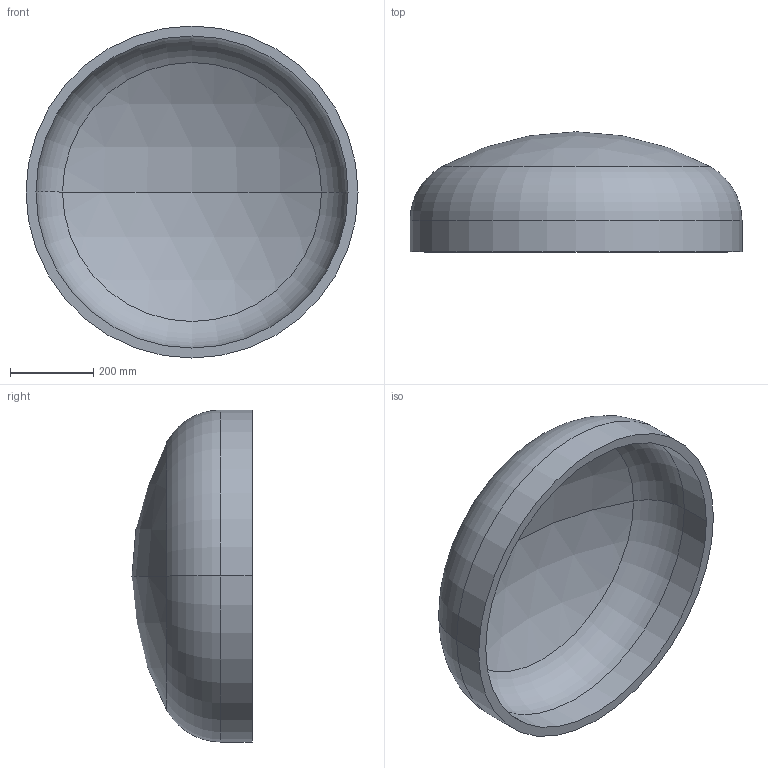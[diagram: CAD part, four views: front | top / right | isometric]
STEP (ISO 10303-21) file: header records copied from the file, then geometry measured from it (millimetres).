
FILE_DESCRIPTION (( 'STEP AP203' ), '1' );
FILE_NAME ('DIN 28013 Korbbogenform_-_Boden DIN 28013 - 800 x 75 - I - s=24.step', '2016-07-01T08:14:19', ( '' ), ( '' ), 'SwSTEP 2.0', 'SolidWorks 2013', '' );
FILE_SCHEMA (( 'CONFIG_CONTROL_DESIGN' ));
Length unit declared in the file: millimetre
Products named in the file (1): DIN 28013 Korbbogenform_-_Boden DIN 28013 - 800 x 75 - I - s=24
Bounding box: 800 x 289.31 x 800 mm (x, y, z)
Volume: 20501237.9 mm3; surface area: 1768151.4 mm2
Topology: 1 solids, 1 shells, 13 faces, 24 edges, 14 vertices
Faces by surface type: torus 4, cylinder 4, sphere 4, plane 1
Entity records: 407 total; most frequent: DIRECTION 72, CARTESIAN_POINT 52, ORIENTED_EDGE 48, AXIS2_PLACEMENT_3D 34, EDGE_CURVE 24, CIRCLE 20, EDGE_LOOP 14, VERTEX_POINT 14
